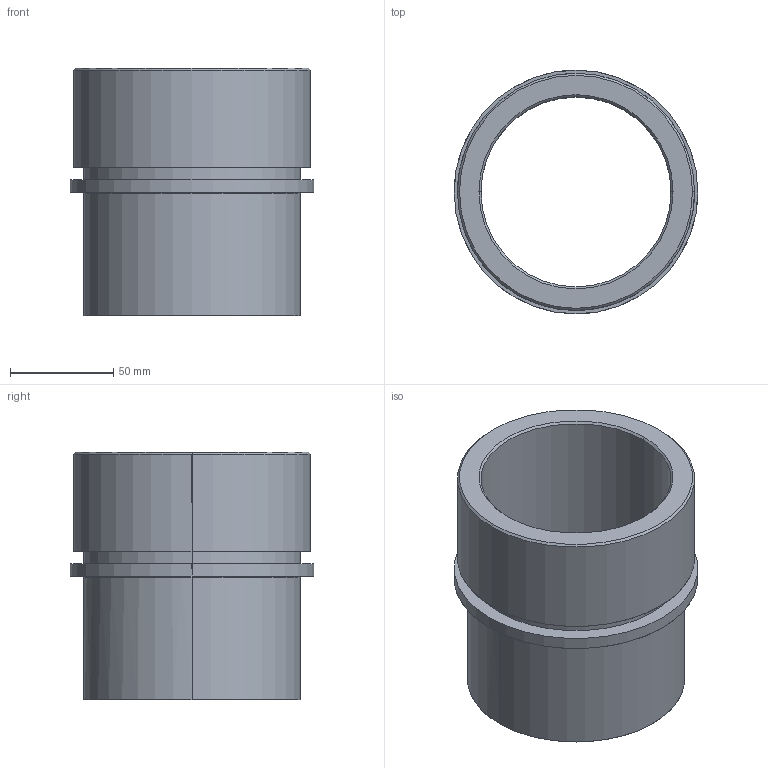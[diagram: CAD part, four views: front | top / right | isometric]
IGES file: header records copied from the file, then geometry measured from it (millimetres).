
Start section: START RECORD GO HERE.
Global section: file name: 735-80.igs; native system: DASSAULT SYSTEMES CATIA V5 R20 - www.3ds.com; preprocessor: CATIA Version 5 Release 20 ; author: Utente; organization: NB04-ASUS; date: 20210116.201514; units: millimetre
Bounding box: 118 x 118 x 120 mm (x, y, z)
Surface area: 87935.1 mm2 (no closed solid volume)
Topology: 0 solids, 0 shells, 25 faces, 100 edges, 100 vertices
Faces by surface type: revolution 20, plane 5
